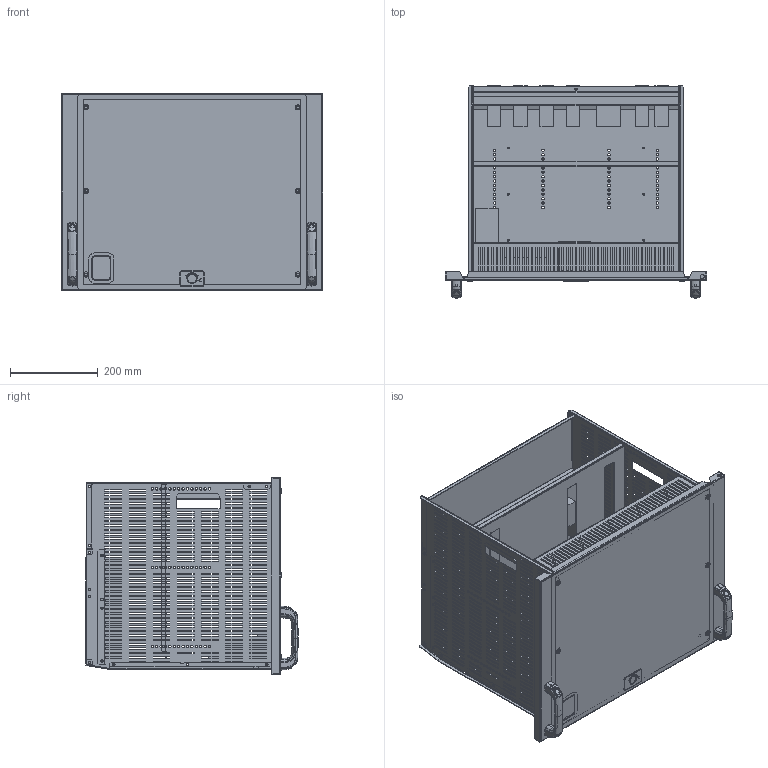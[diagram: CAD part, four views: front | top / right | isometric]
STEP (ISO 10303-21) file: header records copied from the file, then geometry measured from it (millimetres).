
FILE_DESCRIPTION(('CAx-IF Rec.Pracs.---Model Styling and Organization---1.2---2011-12-15','CAx-IF Rec.Pracs.---Geometric and Assembly Validation Properties---4.1---2014-06-16','CAx-IF Rec.Pracs.---PMI Polyline Presentation---2.0---2013-05-24'),'2;1');
FILE_NAME('9М1.stp','2021-05-05T11:49:44+03:00',(''),(''),'STEP Interface 4.4 by CT CoreTechnologie','3D_Evolution4.4 by CT CoreTechnologie','');
FILE_SCHEMA(('AUTOMOTIVE_DESIGN { 1 0 10303 214 1 1 1 1 }'));
Length unit declared in the file: millimetre
Products named in the file (34): 9Ì1; ñèëîâûå áîëüøèå òîêè; M6x20 GOST 17475-80 (DIN 965)_stright; 4.444.002(1); PR.DT477.120.01; PR.DT477.120.02-poprawa; RB.1505.00.00.0 ÑÁ_3; RB.1505.00.01.0_3; 4.444.002(2); RB.1499.00.00.0 ÑÁ_-04; RB.1499.00.01.0_-04; M6 art.MGR-MKO-0625_2¬¬; RB.1501.00.00.0 ÑÁ_-04; RB.1501.00.01.0_-04; RB.1511.00.00.0_-04; R5M2W3M1BR22_R5MW31BR22; RB.1506.00.00.0_-07; M6x12 (A1100001)_stright; RB.1507.00.00.0_-02; RB.1356.00.00.0; ìåõàíèçì; RB.1166.00.00.0 ÑÁ_-04; RB.1166.00.01.0_-04; RB.1166.00.02.0_¢ à 1; RB.1166.00.03.0_-00; RB.1166.00.04.0_-00; PF 7x14 RAMmcc 2.0_91; AC00C061_AC00C061; Ì6õ12-A5100231_straight; PF 3.5x7 RAMmcc 2.0_00; áëîêèðîâêà ìåõàíèçì; 6-GOST 11371-78 (DIN 125) PA 6.6_6-GOST 11371-78 (DIN 125) PA 6.6; êíîïêà; ñèãíàëüíûå
Assembly tree (62 placements, depth 3):
  9Ì1
    ñèëîâûå áîëüøèå òîêè  x8
    M6x20 GOST 17475-80 (DIN 965)_stright  x4
    4.444.002(1)
      PR.DT477.120.01
      PR.DT477.120.02-poprawa  x2
    RB.1505.00.00.0 ÑÁ_3
      RB.1505.00.01.0_3
    4.444.002(2)
      PR.DT477.120.02-poprawa  x2
      PR.DT477.120.01
    RB.1499.00.00.0 ÑÁ_-04
      RB.1499.00.01.0_-04
      M6 art.MGR-MKO-0625_2¬¬  x3
    RB.1501.00.00.0 ÑÁ_-04
      RB.1501.00.01.0_-04
      M6 art.MGR-MKO-0625_2¬¬  x3
    RB.1511.00.00.0_-04
    R5M2W3M1BR22_R5MW31BR22
      RB.1506.00.00.0_-07
    M6x12 (A1100001)_stright  x6
    RB.1507.00.00.0_-02
    RB.1356.00.00.0
    ìåõàíèçì
    RB.1166.00.00.0 ÑÁ_-04
      RB.1166.00.01.0_-04
      RB.1166.00.02.0_¢ à 1
      RB.1166.00.03.0_-00
      RB.1166.00.04.0_-00
      PF 7x14 RAMmcc 2.0_91
      AC00C061_AC00C061
      Ì6õ12-A5100231_straight
      PF 3.5x7 RAMmcc 2.0_00
    áëîêèðîâêà ìåõàíèçì
    6-GOST 11371-78 (DIN 125) PA 6.6_6-GOST 11371-78 (DIN 125) PA 6.6  x6
    êíîïêà
    ñèãíàëüíûå
Bounding box: 594 x 483.5 x 447 mm (x, y, z)
Surface area: 3081610.2 mm2 (no closed solid volume)
Topology: 0 solids, 70 shells, 5299 faces, 14690 edges, 9465 vertices
Faces by surface type: plane 3298, cylinder 1016, bspline 985
Entity records: 187608 total; most frequent: CARTESIAN_POINT 37711, ORIENTED_EDGE 24162, DIRECTION 21941, EDGE_CURVE 12082, VECTOR 9551, LINE 9551, VERTEX_POINT 7918, AXIS2_PLACEMENT_3D 6195
